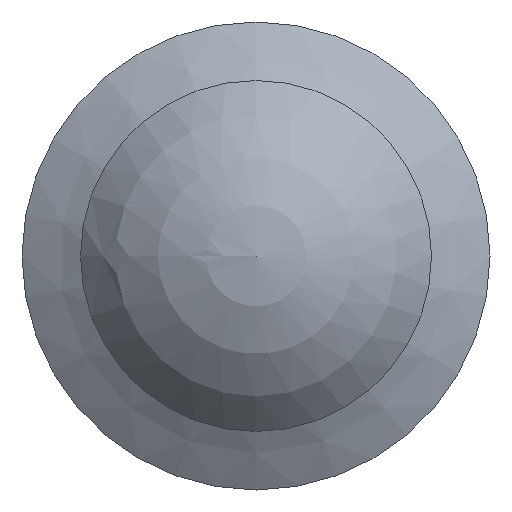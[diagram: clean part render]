
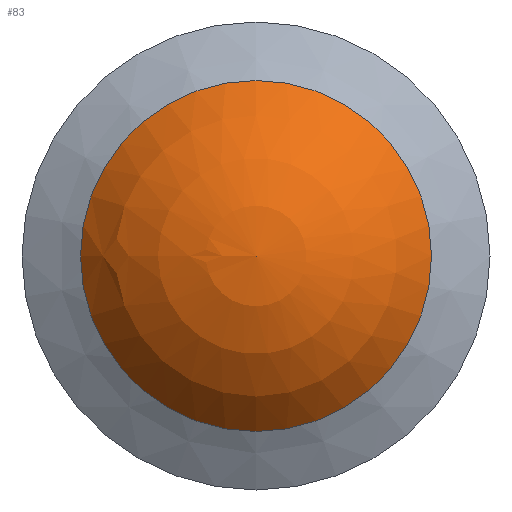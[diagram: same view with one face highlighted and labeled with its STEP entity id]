
A CAD part, front view. The second image highlights one B-rep face of the part: STEP entity #83.
In plain terms, the highlighted spherical face has radius 7.5 mm.
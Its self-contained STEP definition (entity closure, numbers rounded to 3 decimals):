
#83 = ADVANCED_FACE( '', ( #108, #109 ), #110, .T. );
#108 = FACE_BOUND( '', #146, .T. );
#109 = FACE_OUTER_BOUND( '', #147, .T. );
#110 = SPHERICAL_SURFACE( '', #148, 7.5 );
#146 = VERTEX_LOOP( '', #228 );
#147 = EDGE_LOOP( '', ( #229 ) );
#148 = AXIS2_PLACEMENT_3D( '', #230, #231, #232 );
#228 = VERTEX_POINT( '', #282 );
#229 = ORIENTED_EDGE( '', *, *, #283, .T. );
#230 = CARTESIAN_POINT( '', ( 0., 7.5, 0. ) );
#231 = DIRECTION( '', ( 0., -1., 0. ) );
#232 = DIRECTION( '', ( -1., 0., 0. ) );
#282 = CARTESIAN_POINT( '', ( 0., 0., 0. ) );
#283 = EDGE_CURVE( '', #321, #321, #322, .T. );
#321 = VERTEX_POINT( '', #383 );
#322 = CIRCLE( '', #384, 6. );
#383 = CARTESIAN_POINT( '', ( 0., 3., -6. ) );
#384 = AXIS2_PLACEMENT_3D( '', #416, #417, #418 );
#416 = CARTESIAN_POINT( '', ( 0., 3., 0. ) );
#417 = DIRECTION( '', ( 0., -1., 0. ) );
#418 = DIRECTION( '', ( 0., 0., -1. ) );
